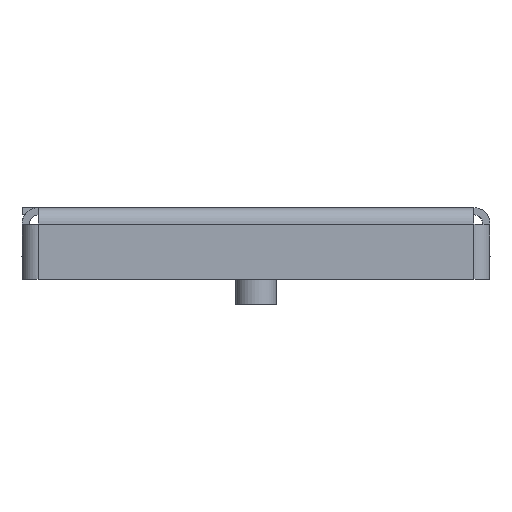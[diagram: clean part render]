
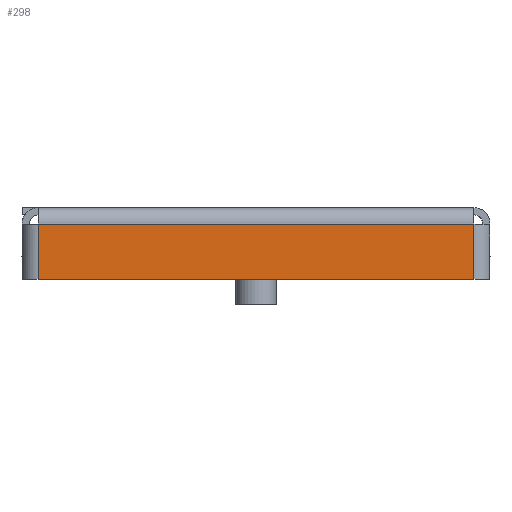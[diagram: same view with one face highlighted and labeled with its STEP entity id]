
A CAD part, left-side view. The second image highlights one B-rep face of the part: STEP entity #298.
In plain terms, the highlighted planar face has unit normal (-1, 0, 0).
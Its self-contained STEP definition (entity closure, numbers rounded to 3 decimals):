
#298=ADVANCED_FACE('',(#2050),#2052,.F.);
#2050=FACE_BOUND('',#2051,.T.);
#2051=EDGE_LOOP('',(#3818,#3819,#3820,#3821));
#2052=PLANE('',#2053);
#2053=AXIS2_PLACEMENT_3D('',#2054,#2055,#2056);
#2054=CARTESIAN_POINT('',(-293.2,0.,0.));
#2055=DIRECTION('',(1.,0.,0.));
#2056=DIRECTION('',(0.,0.,-1.));
#3818=ORIENTED_EDGE('',*,*,#4757,.F.);
#3819=ORIENTED_EDGE('',*,*,#4759,.F.);
#3820=ORIENTED_EDGE('',*,*,#4760,.F.);
#3821=ORIENTED_EDGE('',*,*,#4761,.F.);
#4757=EDGE_CURVE('',#5435,#5428,#5439,.T.);
#4759=EDGE_CURVE('',#5441,#5435,#5442,.T.);
#4760=EDGE_CURVE('',#5443,#5441,#5444,.T.);
#4761=EDGE_CURVE('',#5428,#5443,#5445,.T.);
#5428=VERTEX_POINT('',#6687);
#5435=VERTEX_POINT('',#6707);
#5439=LINE('',#6718,#6719);
#5441=VERTEX_POINT('',#6724);
#5442=LINE('',#6725,#6726);
#5443=VERTEX_POINT('',#6728);
#5444=LINE('',#6729,#6730);
#5445=LINE('',#6732,#6733);
#6687=CARTESIAN_POINT('',(-293.2,-42.55,-3.2));
#6707=CARTESIAN_POINT('',(-293.2,42.55,-3.2));
#6718=CARTESIAN_POINT('',(-293.2,42.55,-3.2));
#6719=VECTOR('',#6720,1.);
#6720=DIRECTION('',(0.,-1.,0.));
#6724=CARTESIAN_POINT('',(-293.2,42.55,-14.));
#6725=CARTESIAN_POINT('',(-293.2,42.55,-14.));
#6726=VECTOR('',#6727,1.);
#6727=DIRECTION('',(0.,0.,1.));
#6728=CARTESIAN_POINT('',(-293.2,-42.55,-14.));
#6729=CARTESIAN_POINT('',(-293.2,-42.55,-14.));
#6730=VECTOR('',#6731,1.);
#6731=DIRECTION('',(0.,1.,0.));
#6732=CARTESIAN_POINT('',(-293.2,-42.55,-3.2));
#6733=VECTOR('',#6734,1.);
#6734=DIRECTION('',(0.,0.,-1.));
